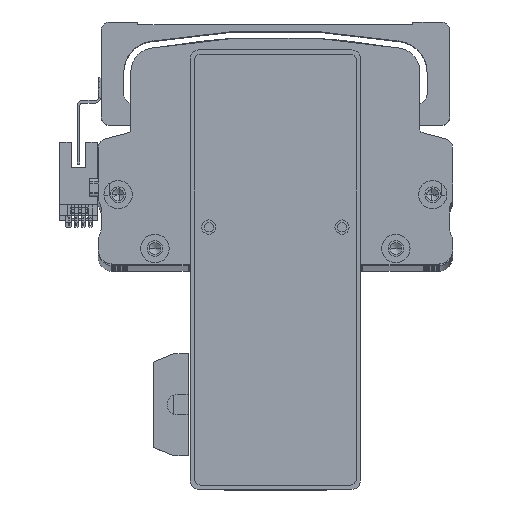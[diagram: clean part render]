
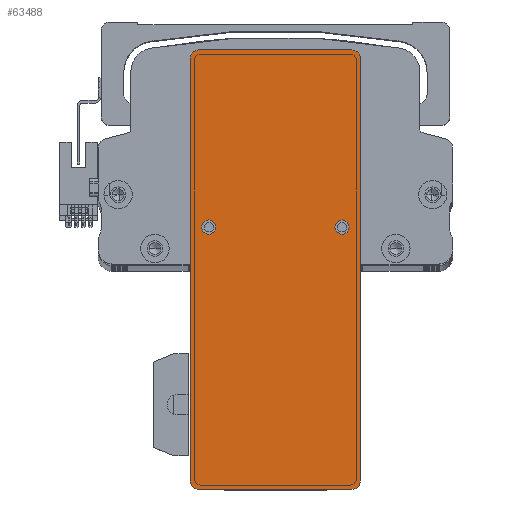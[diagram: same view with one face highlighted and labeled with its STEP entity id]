
A CAD part, top view. The second image highlights one B-rep face of the part: STEP entity #63488.
In plain terms, the highlighted planar face has unit normal (0, 0, 1) as drawn and (0, 0, -1) by its records, which use the part's own axes.
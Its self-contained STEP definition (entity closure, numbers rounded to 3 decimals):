
#408 = CARTESIAN_POINT ( 'NONE',  ( 17.5, -23.5, 0. ) ) ;
#915 = DIRECTION ( 'NONE',  ( 1., 0., 0. ) ) ;
#1549 = VERTEX_POINT ( 'NONE', #4476 ) ;
#2249 = VERTEX_POINT ( 'NONE', #79586 ) ;
#4476 = CARTESIAN_POINT ( 'NONE',  ( -74.5, 30., 0. ) ) ;
#5406 = DIRECTION ( 'NONE',  ( 0., 0., -1. ) ) ;
#5751 = AXIS2_PLACEMENT_3D ( 'NONE', #37202, #82550, #43730 ) ;
#8973 = AXIS2_PLACEMENT_3D ( 'NONE', #78659, #39812, #915 ) ;
#11127 = CARTESIAN_POINT ( 'NONE',  ( 77.5, -30., 0. ) ) ;
#11385 = VERTEX_POINT ( 'NONE', #36905 ) ;
#12424 = CARTESIAN_POINT ( 'NONE',  ( 17.5, 23.5, 0. ) ) ;
#13674 = VERTEX_POINT ( 'NONE', #55158 ) ;
#13715 = CARTESIAN_POINT ( 'NONE',  ( 74.5, -30., 0. ) ) ;
#13906 = LINE ( 'NONE', #26134, #31119 ) ;
#13964 = VERTEX_POINT ( 'NONE', #408 ) ;
#15597 = AXIS2_PLACEMENT_3D ( 'NONE', #16652, #62004, #23191 ) ;
#15681 = CIRCLE ( 'NONE', #5751, 2.5 ) ;
#16652 = CARTESIAN_POINT ( 'NONE',  ( 0., 0., 0. ) ) ;
#17089 = DIRECTION ( 'NONE',  ( 0., 0., -1. ) ) ;
#20238 = ORIENTED_EDGE ( 'NONE', *, *, #20560, .F. ) ;
#20528 = VERTEX_POINT ( 'NONE', #38047 ) ;
#20560 = EDGE_CURVE ( 'NONE', #20528, #67771, #24458, .T. ) ;
#20691 = CARTESIAN_POINT ( 'NONE',  ( 15., -23.5, 0. ) ) ;
#21416 = CIRCLE ( 'NONE', #46063, 3. ) ;
#21525 = VERTEX_POINT ( 'NONE', #58282 ) ;
#23191 = DIRECTION ( 'NONE',  ( 1., 0., 0. ) ) ;
#23448 = CARTESIAN_POINT ( 'NONE',  ( 12.5, -23.5, 0. ) ) ;
#24458 = CIRCLE ( 'NONE', #74661, 2.5 ) ;
#26027 = CIRCLE ( 'NONE', #51135, 2.5 ) ;
#26035 = CARTESIAN_POINT ( 'NONE',  ( 15., 23.5, 0. ) ) ;
#26134 = CARTESIAN_POINT ( 'NONE',  ( 77.5, -30., 0. ) ) ;
#27031 = EDGE_CURVE ( 'NONE', #11385, #1549, #77100, .T. ) ;
#27140 = VECTOR ( 'NONE', #43772, 1000. ) ;
#27193 = DIRECTION ( 'NONE',  ( -1., 0., 0. ) ) ;
#28675 = DIRECTION ( 'NONE',  ( 0., 0., -1. ) ) ;
#28776 = VECTOR ( 'NONE', #29871, 1000. ) ;
#29434 = PLANE ( 'NONE',  #15597 ) ;
#29871 = DIRECTION ( 'NONE',  ( -1., 0., 0. ) ) ;
#31119 = VECTOR ( 'NONE', #64964, 1000. ) ;
#32554 = DIRECTION ( 'NONE',  ( -1., 0., 0. ) ) ;
#32932 = EDGE_CURVE ( 'NONE', #11385, #2249, #71185, .T. ) ;
#33355 = CIRCLE ( 'NONE', #70390, 3. ) ;
#34527 = EDGE_CURVE ( 'NONE', #13964, #74901, #68627, .T. ) ;
#36845 = EDGE_CURVE ( 'NONE', #51186, #68447, #21416, .T. ) ;
#36905 = CARTESIAN_POINT ( 'NONE',  ( -77.5, 27., 0. ) ) ;
#37079 = CARTESIAN_POINT ( 'NONE',  ( 74.5, -27., 0. ) ) ;
#37202 = CARTESIAN_POINT ( 'NONE',  ( 15., -23.5, 0. ) ) ;
#37660 = ORIENTED_EDGE ( 'NONE', *, *, #43325, .F. ) ;
#38047 = CARTESIAN_POINT ( 'NONE',  ( 12.5, 23.5, 0. ) ) ;
#39812 = DIRECTION ( 'NONE',  ( 0., 0., -1. ) ) ;
#43325 = EDGE_CURVE ( 'NONE', #63127, #68447, #61607, .T. ) ;
#43605 = DIRECTION ( 'NONE',  ( 1., 0., 0. ) ) ;
#43730 = DIRECTION ( 'NONE',  ( -1., 0., 0. ) ) ;
#43772 = DIRECTION ( 'NONE',  ( 1., 0., 0. ) ) ;
#44267 = CARTESIAN_POINT ( 'NONE',  ( 74.5, 27., 0. ) ) ;
#44825 = CARTESIAN_POINT ( 'NONE',  ( -74.5, -30., 0. ) ) ;
#45044 = ORIENTED_EDGE ( 'NONE', *, *, #80094, .F. ) ;
#46063 = AXIS2_PLACEMENT_3D ( 'NONE', #37079, #82429, #43605 ) ;
#50764 = DIRECTION ( 'NONE',  ( 1., 0., 0. ) ) ;
#51135 = AXIS2_PLACEMENT_3D ( 'NONE', #26035, #71386, #32554 ) ;
#51186 = VERTEX_POINT ( 'NONE', #64572 ) ;
#52156 = LINE ( 'NONE', #55692, #28776 ) ;
#53945 = VECTOR ( 'NONE', #70982, 1000. ) ;
#55158 = CARTESIAN_POINT ( 'NONE',  ( 74.5, 30., 0. ) ) ;
#55692 = CARTESIAN_POINT ( 'NONE',  ( 77.5, 30., 0. ) ) ;
#55926 = CARTESIAN_POINT ( 'NONE',  ( -74.5, -27., 0. ) ) ;
#57300 = EDGE_CURVE ( 'NONE', #51186, #21525, #13906, .T. ) ;
#57828 = CIRCLE ( 'NONE', #58748, 3. ) ;
#57930 = FACE_BOUND ( 'NONE', #63461, .T. ) ;
#57950 = CARTESIAN_POINT ( 'NONE',  ( -77.5, -30., 0. ) ) ;
#58282 = CARTESIAN_POINT ( 'NONE',  ( 77.5, 27., 0. ) ) ;
#58748 = AXIS2_PLACEMENT_3D ( 'NONE', #55926, #17089, #62411 ) ;
#59411 = EDGE_CURVE ( 'NONE', #13674, #1549, #52156, .T. ) ;
#59977 = FACE_OUTER_BOUND ( 'NONE', #65456, .T. ) ;
#61607 = LINE ( 'NONE', #11127, #27140 ) ;
#62004 = DIRECTION ( 'NONE',  ( 0., 0., 1. ) ) ;
#62411 = DIRECTION ( 'NONE',  ( 1., 0., 0. ) ) ;
#63127 = VERTEX_POINT ( 'NONE', #44825 ) ;
#63461 = EDGE_LOOP ( 'NONE', ( #20238, #74662 ) ) ;
#63488 = ADVANCED_FACE ( 'NONE', ( #57930, #64031, #59977 ), #29434, .F. ) ;
#64031 = FACE_BOUND ( 'NONE', #71010, .T. ) ;
#64572 = CARTESIAN_POINT ( 'NONE',  ( 77.5, -27., 0. ) ) ;
#64964 = DIRECTION ( 'NONE',  ( 0., 1., 0. ) ) ;
#65456 = EDGE_LOOP ( 'NONE', ( #75163, #78481, #37660, #66980, #78054, #82206, #84037, #73224 ) ) ;
#66007 = DIRECTION ( 'NONE',  ( 0., 0., -1. ) ) ;
#66980 = ORIENTED_EDGE ( 'NONE', *, *, #77858, .T. ) ;
#67508 = CARTESIAN_POINT ( 'NONE',  ( 15., 23.5, 0. ) ) ;
#67771 = VERTEX_POINT ( 'NONE', #12424 ) ;
#68447 = VERTEX_POINT ( 'NONE', #13715 ) ;
#68627 = CIRCLE ( 'NONE', #74172, 2.5 ) ;
#70390 = AXIS2_PLACEMENT_3D ( 'NONE', #44267, #5406, #50764 ) ;
#70982 = DIRECTION ( 'NONE',  ( 0., -1., 0. ) ) ;
#71010 = EDGE_LOOP ( 'NONE', ( #45044, #80029 ) ) ;
#71185 = LINE ( 'NONE', #57950, #53945 ) ;
#71386 = DIRECTION ( 'NONE',  ( 0., 0., -1. ) ) ;
#72164 = EDGE_CURVE ( 'NONE', #67771, #20528, #26027, .T. ) ;
#73224 = ORIENTED_EDGE ( 'NONE', *, *, #74410, .T. ) ;
#74083 = DIRECTION ( 'NONE',  ( -1., 0., 0. ) ) ;
#74172 = AXIS2_PLACEMENT_3D ( 'NONE', #20691, #66007, #27193 ) ;
#74410 = EDGE_CURVE ( 'NONE', #13674, #21525, #33355, .T. ) ;
#74661 = AXIS2_PLACEMENT_3D ( 'NONE', #67508, #28675, #74083 ) ;
#74662 = ORIENTED_EDGE ( 'NONE', *, *, #72164, .F. ) ;
#74901 = VERTEX_POINT ( 'NONE', #23448 ) ;
#75163 = ORIENTED_EDGE ( 'NONE', *, *, #57300, .F. ) ;
#77100 = CIRCLE ( 'NONE', #8973, 3. ) ;
#77858 = EDGE_CURVE ( 'NONE', #63127, #2249, #57828, .T. ) ;
#78054 = ORIENTED_EDGE ( 'NONE', *, *, #32932, .F. ) ;
#78481 = ORIENTED_EDGE ( 'NONE', *, *, #36845, .T. ) ;
#78659 = CARTESIAN_POINT ( 'NONE',  ( -74.5, 27., 0. ) ) ;
#79586 = CARTESIAN_POINT ( 'NONE',  ( -77.5, -27., 0. ) ) ;
#80029 = ORIENTED_EDGE ( 'NONE', *, *, #34527, .F. ) ;
#80094 = EDGE_CURVE ( 'NONE', #74901, #13964, #15681, .T. ) ;
#82206 = ORIENTED_EDGE ( 'NONE', *, *, #27031, .T. ) ;
#82429 = DIRECTION ( 'NONE',  ( 0., 0., -1. ) ) ;
#82550 = DIRECTION ( 'NONE',  ( 0., 0., -1. ) ) ;
#84037 = ORIENTED_EDGE ( 'NONE', *, *, #59411, .F. ) ;
